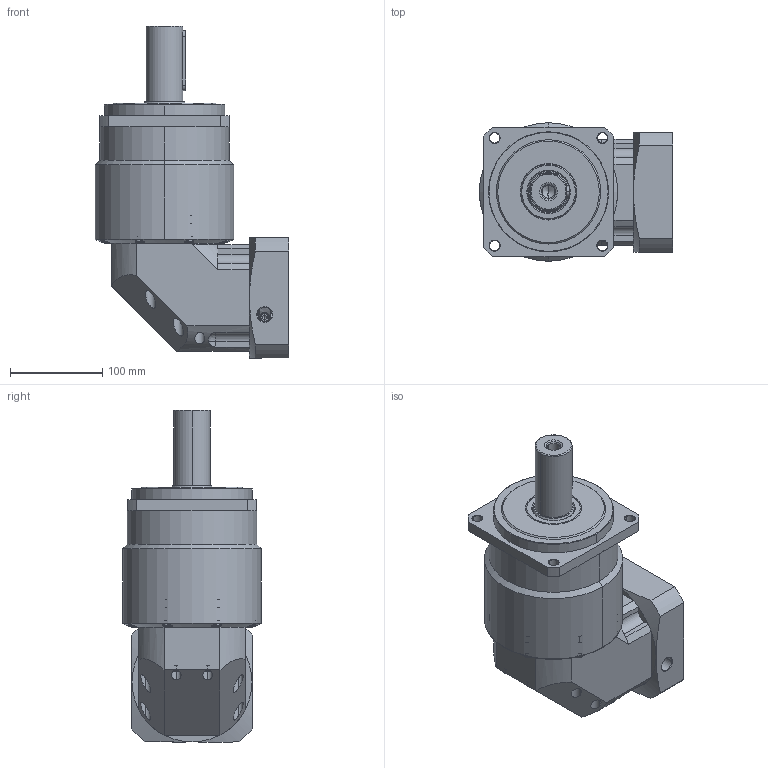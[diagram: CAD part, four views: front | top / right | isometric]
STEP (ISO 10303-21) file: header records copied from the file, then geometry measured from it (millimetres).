
FILE_DESCRIPTION (( 'STEP AP214' ), '1' );
FILE_NAME ('TVBR-140-L2-22-110-145-M8.STEP', '2023-12-11T07:25:33', ( '' ), ( '' ), 'SwSTEP 2.0', 'SolidWorks 2016', '' );
FILE_SCHEMA (( 'AUTOMOTIVE_DESIGN' ));
Length unit declared in the file: millimetre
Products named in the file (1): TVBR-140-L2-22-110-145-M8
Bounding box: 209.5 x 150 x 359.5 mm (x, y, z)
Volume: 4363040 mm3; surface area: 391301 mm2
Topology: 23 solids, 42 shells, 1368 faces, 3160 edges, 1908 vertices
Faces by surface type: plane 599, cylinder 477, cone 228, torus 62, bspline 2
Entity records: 54299 total; most frequent: CARTESIAN_POINT 7912, DIRECTION 7037, ORIENTED_EDGE 6096, EDGE_CURVE 3048, AXIS2_PLACEMENT_3D 2754, VERTEX_POINT 1908, EDGE_LOOP 1534, LINE 1529
